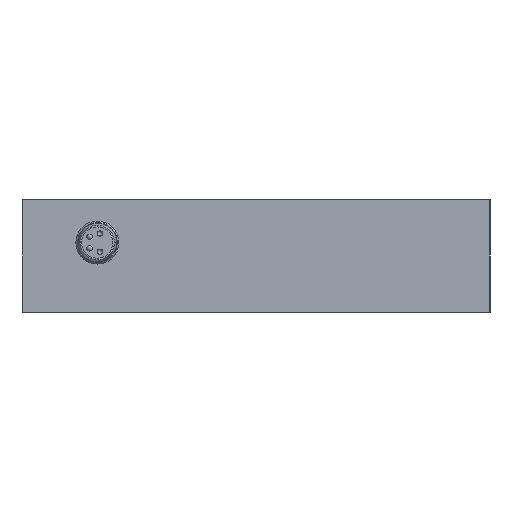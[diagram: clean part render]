
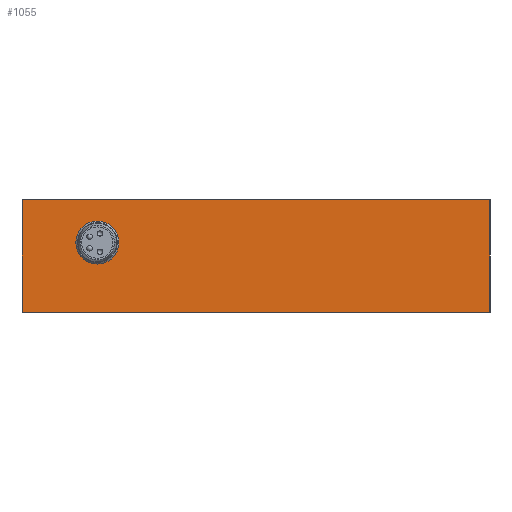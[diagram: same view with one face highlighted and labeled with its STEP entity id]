
A CAD part, left-side view. The second image highlights one B-rep face of the part: STEP entity #1055.
In plain terms, the highlighted planar face has unit normal (-1, 0, 0).
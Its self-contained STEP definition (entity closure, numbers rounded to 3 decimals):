
#1055=ADVANCED_FACE('0:2857',(#2290,#2291),#2292,.T.);
#2290=FACE_OUTER_BOUND('',#3723,.T.);
#2291=FACE_BOUND('',#3724,.T.);
#2292=PLANE('',#3725);
#3723=EDGE_LOOP('',(#6949,#6950,#6951,#6952));
#3724=EDGE_LOOP('',(#6953,#6954));
#3725=AXIS2_PLACEMENT_3D('',#6955,#6956,#6957);
#6949=ORIENTED_EDGE('',*,*,#9416,.T.);
#6950=ORIENTED_EDGE('',*,*,#9022,.T.);
#6951=ORIENTED_EDGE('',*,*,#9417,.F.);
#6952=ORIENTED_EDGE('',*,*,#9418,.F.);
#6953=ORIENTED_EDGE('',*,*,#8975,.F.);
#6954=ORIENTED_EDGE('',*,*,#8431,.F.);
#6955=CARTESIAN_POINT('',(-88.6,0.002,0.001));
#6956=DIRECTION('',(-1.0,0.,0.));
#6957=DIRECTION('',(0.,0.,-1.));
#8431=EDGE_CURVE('0:3319',#10073,#10076,#10077,.T.);
#8975=EDGE_CURVE('0:3319',#10076,#10073,#10883,.T.);
#9022=EDGE_CURVE('0:3412',#10936,#10933,#10937,.F.);
#9416=EDGE_CURVE('0:4276',#11512,#10936,#11513,.F.);
#9417=EDGE_CURVE('0:4279',#11514,#10933,#11515,.T.);
#9418=EDGE_CURVE('0:4282',#11512,#11514,#11516,.T.);
#10073=VERTEX_POINT('',#12560);
#10076=VERTEX_POINT('',#12564);
#10077=CIRCLE('',#12565,3.35);
#10883=CIRCLE('',#14337,3.35);
#10933=VERTEX_POINT('',#14387);
#10936=VERTEX_POINT('',#14391);
#10937=LINE('',#14392,#14393);
#11512=VERTEX_POINT('',#15805);
#11513=LINE('',#15806,#15807);
#11514=VERTEX_POINT('',#15808);
#11515=LINE('',#15809,#15810);
#11516=LINE('',#15811,#15812);
#12560=CARTESIAN_POINT('',(-88.6,6.152,13.001));
#12564=CARTESIAN_POINT('',(-88.6,12.852,13.002));
#12565=AXIS2_PLACEMENT_3D('',#17381,#17382,#17383);
#14337=AXIS2_PLACEMENT_3D('',#17998,#17999,#18000);
#14387=CARTESIAN_POINT('',(-88.6,23.502,21.001));
#14391=CARTESIAN_POINT('',(-88.6,-63.498,21.001));
#14392=CARTESIAN_POINT('',(-88.6,0.002,21.001));
#14393=VECTOR('',#18086,1.0);
#15805=CARTESIAN_POINT('',(-88.6,-63.498,0.001));
#15806=CARTESIAN_POINT('',(-88.6,-63.498,0.001));
#15807=VECTOR('',#18333,0.001);
#15808=CARTESIAN_POINT('',(-88.6,23.502,0.001));
#15809=CARTESIAN_POINT('',(-88.6,23.502,0.001));
#15810=VECTOR('',#18334,0.001);
#15811=CARTESIAN_POINT('',(-88.6,-23.498,0.001));
#15812=VECTOR('',#18335,0.001);
#17381=CARTESIAN_POINT('',(-88.6,9.502,13.002));
#17382=DIRECTION('',(-1.0,0.,0.));
#17383=DIRECTION('',(0.,-1.,0.));
#17998=CARTESIAN_POINT('',(-88.6,9.502,13.002));
#17999=DIRECTION('',(-1.0,0.,0.));
#18000=DIRECTION('',(0.,-1.,0.));
#18086=DIRECTION('',(0.,-1.0,0.));
#18333=DIRECTION('',(0.,0.,-1.0));
#18334=DIRECTION('',(0.,0.,1.0));
#18335=DIRECTION('',(0.,1.0,0.));
